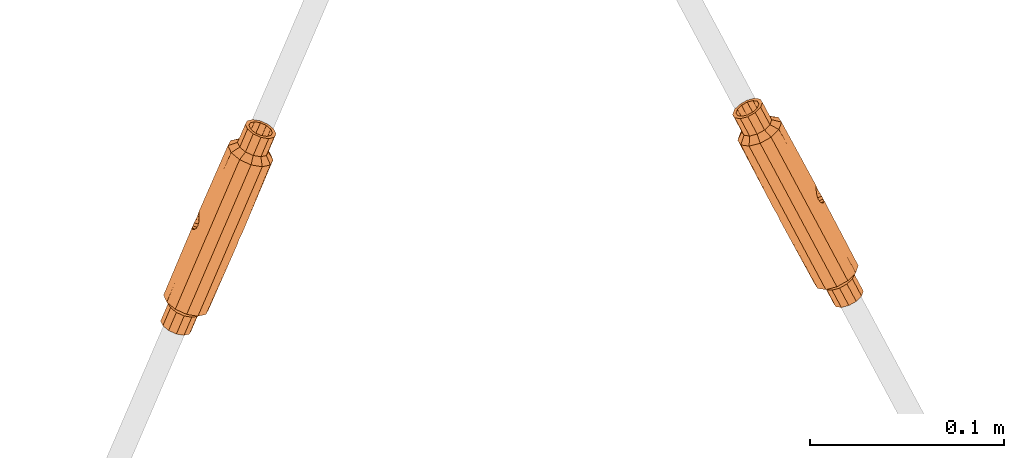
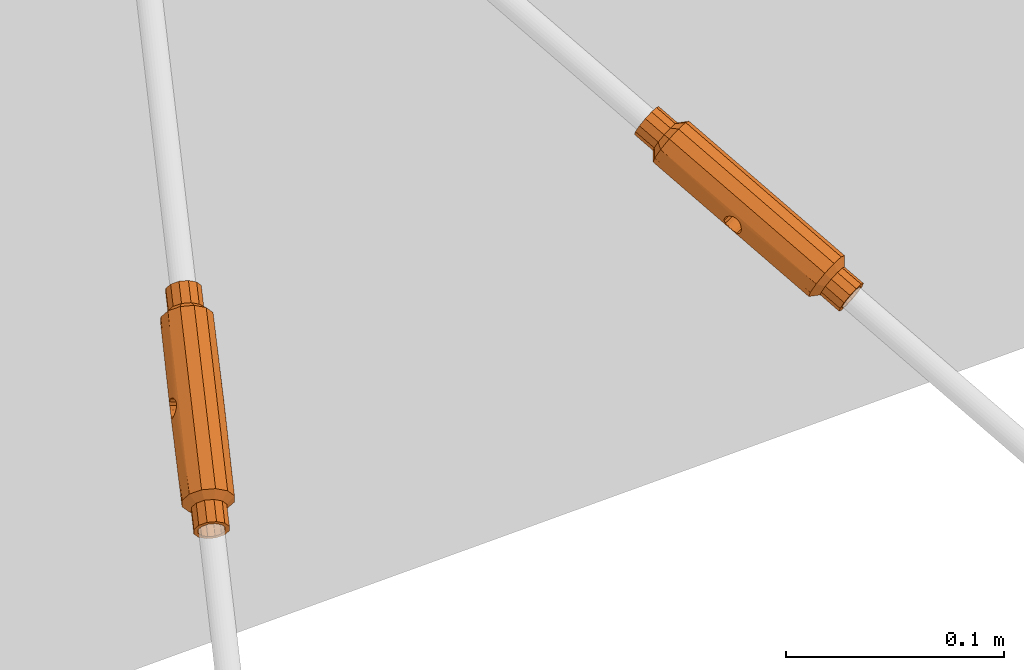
# One storey, part 287 of 288: 2 proxies.
"""IFC2X3 building model written with IfcOpenShell, lengths in millimetres."""

from ifc_helpers import new_model, entity, si_unit, converted_unit, origin_with_axes, place, context, project, spatial, faceted_brep, material, element, save


model = new_model("IFC2X3")

# Units and contexts
model_context = context("Model", 3, precision=1e-09, world=origin_with_axes())
ifc_project = project(units=[si_unit("LENGTHUNIT", "METRE", prefix="MILLI"), si_unit("AREAUNIT", "SQUARE_METRE"), si_unit("VOLUMEUNIT", "CUBIC_METRE"), converted_unit("PLANEANGLEUNIT", "DEGREE", entity("IfcPlaneAngleMeasure", 0.01745329), si_unit("PLANEANGLEUNIT", "RADIAN"), dimensions=[0, 0, 0, 0, 0, 0, 0])], contexts=[model_context])

# Site, building, storey
site_placement = place(None, origin_with_axes())
site = spatial("IfcSite", under=ifc_project, at=site_placement, Name="Remont ?wietlik?w nad MC w NCPP w Opolu", CompositionType="ELEMENT")
building_placement = place(site_placement, origin_with_axes())
building = spatial("IfcBuilding", under=site, at=building_placement, Name="Konstrukcja 1", CompositionType="ELEMENT")
storey_placement = place(building_placement, origin_with_axes())
storey = spatial("IfcBuildingStorey", under=building, at=storey_placement, Name="Default Storey", CompositionType="ELEMENT", Elevation=0.0)

# Proxies
ifc_material = material(Name="Brak")
proxy_1_placement = place(None, origin_with_axes())
element("IfcBuildingElementProxy", 1, at=proxy_1_placement, inside=storey, material=ifc_material, ObjectType="Turnbuckle", context=model_context, shape_type="Brep", body=[
    faceted_brep([(2773.815781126, 14317.48982, 513.129984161), (2775.142492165, 14319.044441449, 512.793696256), (2768.556513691, 14321.110668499, 514.158433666), (2796.745747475, 14371.050275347, 544.147673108), (2775.974391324, 14323.493278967, 518.414667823), (2776.268769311, 14323.186766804, 516.389752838), (2776.450333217, 14321.475916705, 513.844085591), (2776.494870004, 14322.185273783, 514.59086713), (2769.902437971, 14324.236512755, 515.947028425), (2775.755911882, 14319.863156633, 512.921271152), (2769.371161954, 14322.820276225, 514.689756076), (2796.000418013, 14369.668418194, 547.123544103), (2772.759520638, 14316.026896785, 514.142435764), (2767.666620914, 14319.365882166, 514.412587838), (2772.370329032, 14314.788675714, 515.721589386), (2766.984260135, 14317.780949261, 515.372878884), (2752.986323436, 14269.421122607, 485.995905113), (2758.228002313, 14280.422524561, 487.545061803), (2757.492471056, 14285.612379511, 486.551517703), (2763.309259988, 14284.628605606, 483.893658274), (2762.171013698, 14279.755656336, 485.743385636), (2753.306615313, 14284.646100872, 491.39011033), (2766.751493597, 14316.542595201, 516.884540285), (2775.871082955, 14322.919007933, 520.373730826), (2786.563777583, 14361.884256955, 535.585454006), (2770.14109213, 14325.112722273, 517.700905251), (2770.215412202, 14325.285144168, 519.666747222), (2790.749633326, 14362.850535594, 530.74686138), (2776.210340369, 14320.685426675, 513.274226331), (2798.922392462, 14371.55274024, 541.631604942), (2755.162968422, 14269.923587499, 483.479836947), (2758.144508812, 14270.419052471, 480.370315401), (2754.189092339, 14271.088018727, 482.177659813), (2766.163054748, 14277.945597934, 485.902715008), (2762.149109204, 14268.603299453, 480.530146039), (2794.127472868, 14370.253058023, 547.511194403), (2795.285691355, 14367.78023553, 550.961268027), (2798.266446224, 14365.304225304, 553.045447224), (2802.271046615, 14363.488472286, 553.205277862), (2806.226463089, 14362.819506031, 551.39793345), (2809.072844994, 14363.476575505, 548.107690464), (2810.047506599, 14365.283619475, 544.216166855), (2808.889288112, 14367.756441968, 540.766093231), (2805.908533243, 14370.232452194, 538.681914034), (2801.903932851, 14372.048205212, 538.522083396), (2797.948516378, 14372.717171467, 540.329427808), (2795.102134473, 14372.060101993, 543.619670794), (2799.165515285, 14365.884016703, 551.35561979), (2796.886114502, 14367.777436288, 549.761835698), (2801.947122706, 14371.041177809, 540.249518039), (2805.009464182, 14369.652660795, 540.371741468), (2807.288864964, 14367.759241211, 541.96552556), (2808.174561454, 14365.868259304, 544.603817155), (2807.429231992, 14364.486402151, 547.57968815), (2805.252587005, 14363.983937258, 550.095756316), (2802.227856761, 14364.495499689, 551.477843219), (2752.240993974, 14268.039265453, 488.971776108), (2751.342710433, 14270.430949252, 485.467902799), (2755.390547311, 14279.767515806, 490.824985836), (2751.873289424, 14281.98868327, 497.112939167), (2772.844993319, 14314.033990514, 517.561027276), (2767.067363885, 14315.843277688, 518.696721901), (2776.059864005, 14321.500372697, 521.833259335), (2770.252247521, 14324.672927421, 521.536681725), (2791.076267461, 14362.710219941, 538.269708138), (2790.101605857, 14360.903175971, 542.161231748), (2776.422838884, 14319.59443516, 522.551966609), (2765.129864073, 14266.127289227, 482.614325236), (2766.288082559, 14263.654466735, 486.06439886), (2765.313420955, 14261.847422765, 489.955922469), (2762.46703905, 14261.19035329, 493.246165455), (2758.511622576, 14261.859319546, 495.053509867), (2754.507022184, 14263.675072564, 494.893679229), (2751.526267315, 14266.15108279, 492.809500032), (2750.368048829, 14268.623905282, 489.359426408), (2763.669807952, 14262.85724941, 489.427920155), (2764.415137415, 14264.239106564, 486.452049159), (2763.529440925, 14266.13008847, 483.813757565), (2761.250040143, 14268.023508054, 482.219973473), (2758.187698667, 14269.412025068, 482.097750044), (2753.126690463, 14266.148283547, 491.610067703), (2755.406091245, 14264.254863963, 493.203851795), (2758.468432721, 14262.866346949, 493.326075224), (2761.493162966, 14262.354784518, 491.943988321), (2783.992716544, 14314.313089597, 511.023626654), (2783.721500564, 14316.366503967, 511.018067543), (2784.355691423, 14312.407152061, 511.742333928), (2769.198378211, 14281.958380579, 484.12870333), (2796.566422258, 14361.866761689, 528.08900195), (2793.922649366, 14363.367289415, 534.979465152), (2769.13446129, 14275.477353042, 487.980357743), (2767.819377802, 14315.804157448, 520.522299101), (2773.969850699, 14313.897488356, 519.292197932), (2770.298515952, 14323.347472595, 522.990590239), (2785.130451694, 14359.226839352, 541.308282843), (2770.293849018, 14321.550997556, 523.810616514), (2776.694054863, 14317.541020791, 522.55752572), (2770.101789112, 14319.588382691, 523.920337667), (2776.661991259, 14316.540835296, 522.309625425), (2775.341677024, 14314.400188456, 520.760354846), (2768.755864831, 14316.462538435, 522.131742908), (2790.313766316, 14314.319142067, 509.655255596), (2790.121706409, 14312.356527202, 509.764976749), (2784.544472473, 14310.988516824, 513.201862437), (2790.117039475, 14310.560052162, 510.585003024), (2783.753564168, 14317.366689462, 511.265967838), (2754.418942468, 14277.966139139, 494.704304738), (2776.426289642, 14315.65028966, 521.911399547), (2769.587111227, 14317.78513921, 523.326929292), (2775.967569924, 14314.928075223, 521.386810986), (2791.259824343, 14358.430353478, 545.611305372), (2770.289047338, 14273.012285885, 491.419611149), (2784.441164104, 14310.41424579, 515.16092544), (2790.163307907, 14309.234597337, 512.038911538), (2790.8284442, 14316.122385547, 510.248663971), (2773.581841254, 14278.317189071, 487.193672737), (2802.455540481, 14359.196536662, 528.324047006), (2797.87806584, 14362.69832316, 533.17212074), (2783.989265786, 14318.257235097, 511.664193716), (2753.576551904, 14278.352179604, 502.186576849), (2786.833714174, 14355.590335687, 546.381920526), (2775.285103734, 14274.680685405, 492.26731042), (2790.200143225, 14308.62238059, 513.908846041), (2784.447985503, 14318.979449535, 512.188782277), (2755.573528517, 14275.501071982, 498.143558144), (2794.240579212, 14355.954343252, 547.695484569), (2783.920685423, 14311.722250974, 518.984726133), (2784.146786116, 14310.720757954, 517.185840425), (2769.317442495, 14271.210909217, 495.298930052), (2790.274463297, 14308.794802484, 515.874688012), (2791.659690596, 14317.444986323, 511.443850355), (2806.839003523, 14355.555345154, 531.389016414), (2801.882666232, 14360.882570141, 533.331951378), (2785.073878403, 14319.507336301, 512.815238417), (2786.445704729, 14320.010036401, 514.283395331), (2792.596177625, 14318.103367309, 513.053294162), (2787.570562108, 14319.873534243, 516.014565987), (2793.348191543, 14318.064247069, 514.878871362), (2788.045226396, 14319.118849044, 517.854003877), (2783.96522221, 14312.431608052, 519.731507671), (2784.205215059, 14313.222098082, 520.301366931), (2790.513117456, 14309.671012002, 517.628564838), (2784.659643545, 14314.044368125, 520.654322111), (2793.66406183, 14317.364929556, 516.691052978), (2758.544935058, 14273.032827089, 500.221200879), (2757.960014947, 14274.710988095, 505.251546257), (2791.217177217, 14351.949144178, 549.446889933), (2787.65603479, 14317.880627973, 519.433157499), (2786.599774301, 14316.417704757, 520.445609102), (2798.245179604, 14354.138590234, 547.855315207), (2785.273063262, 14314.863083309, 520.781897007), (2791.044393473, 14311.087248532, 518.885837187), (2791.859041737, 14312.796856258, 519.417159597), (2762.536976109, 14271.222768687, 500.380530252), (2766.479987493, 14270.555900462, 498.578854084), (2773.851777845, 14272.023267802, 497.990139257), (2792.748934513, 14314.541642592, 519.163005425), (2793.431295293, 14316.126575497, 518.202714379), (2808.542266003, 14351.918841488, 536.462654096), (2804.863421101, 14358.406559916, 535.416130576), (2763.84913317, 14272.040763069, 505.486591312), (2797.10629544, 14349.278919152, 549.681934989), (2802.200596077, 14353.469623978, 546.047970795), (2807.108940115, 14349.261423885, 542.185482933), (2769.665922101, 14271.056989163, 502.828731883), (2806.021639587, 14355.933737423, 538.866204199), (2802.923084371, 14348.295145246, 547.02407556), (2805.046977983, 14354.126693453, 542.757727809)], [[[0, 1, 2]], [[3, 4, 5]], [[6, 7, 8]], [[9, 10, 2]], [[1, 9, 2]], [[3, 5, 7]], [[3, 11, 4]], [[12, 0, 13]], [[14, 12, 15]], [[16, 1, 0]], [[17, 18, 19, 20]], [[12, 13, 15]], [[0, 2, 13]], [[21, 2, 10]], [[14, 15, 22]], [[11, 23, 4]], [[7, 5, 8]], [[6, 8, 10]], [[24, 21, 10]], [[5, 4, 25]], [[4, 23, 26]], [[21, 24, 27, 18]], [[28, 6, 10]], [[29, 7, 6]], [[9, 28, 10]], [[30, 9, 1]], [[20, 31, 32, 17]], [[33, 34, 31, 20]], [[29, 3, 7]], [[35, 36, 37, 38, 39, 40, 41, 42, 43, 44, 45, 46], [47, 48, 11, 3, 29, 49, 50, 51, 52, 53, 54, 55]], [[16, 0, 12]], [[56, 12, 14]], [[16, 30, 1]], [[17, 32, 57, 58]], [[18, 17, 58, 21]], [[59, 15, 13]], [[21, 13, 2]], [[60, 14, 61]], [[14, 22, 61]], [[59, 22, 15]], [[11, 62, 23]], [[23, 63, 26]], [[5, 25, 8]], [[24, 10, 8]], [[4, 26, 25]], [[46, 64, 65, 35]], [[48, 66, 62]], [[11, 48, 62]], [[67, 68, 69, 70, 71, 72, 73, 74, 57, 32, 31, 34], [75, 76, 77, 78, 79, 30, 16, 56, 80, 81, 82, 83]], [[77, 84, 85]], [[77, 86, 84]], [[77, 76, 86]], [[20, 19, 87, 33]], [[18, 27, 88, 19]], [[64, 46, 45, 89]], [[78, 77, 85]], [[29, 6, 28]], [[30, 28, 9]], [[34, 33, 90, 67]], [[56, 16, 12]], [[56, 14, 60]], [[21, 59, 13]], [[60, 61, 91]], [[59, 61, 22]], [[92, 60, 91]], [[23, 62, 93]], [[23, 93, 63]], [[94, 26, 63]], [[62, 66, 95]], [[66, 96, 97]], [[24, 8, 25]], [[94, 25, 26]], [[24, 64, 89, 27]], [[47, 98, 96]], [[48, 96, 66]], [[99, 92, 100]], [[80, 60, 92]], [[101, 85, 84]], [[102, 84, 86]], [[76, 103, 86]], [[104, 86, 103]], [[101, 105, 85]], [[78, 85, 105]], [[30, 29, 28]], [[80, 56, 60]], [[58, 57, 74, 106]], [[21, 58, 106, 59]], [[59, 91, 61]], [[96, 98, 97]], [[107, 108, 98]], [[107, 109, 108]], [[109, 99, 100]], [[92, 91, 100]], [[62, 95, 93]], [[94, 63, 93]], [[66, 97, 95]], [[94, 24, 25]], [[64, 24, 94, 65]], [[35, 65, 110, 36]], [[81, 109, 107]], [[47, 107, 98]], [[48, 47, 96]], [[80, 92, 99]], [[81, 99, 109]], [[67, 90, 111, 68]], [[102, 101, 84]], [[104, 102, 86]], [[76, 112, 103]], [[113, 104, 103]], [[101, 114, 105]], [[33, 87, 115, 90]], [[19, 88, 116, 87]], [[27, 89, 117, 88]], [[89, 45, 44, 117]], [[114, 118, 105]], [[78, 105, 118]], [[29, 30, 79, 49]], [[59, 119, 91]], [[98, 108, 97]], [[109, 100, 108]], [[119, 100, 91]], [[94, 93, 95]], [[120, 95, 97]], [[47, 81, 107]], [[81, 80, 99]], [[76, 75, 112]], [[115, 101, 102]], [[121, 102, 104]], [[122, 103, 112]], [[122, 113, 103]], [[121, 104, 113]], [[115, 114, 101]], [[114, 123, 118]], [[50, 78, 118]], [[78, 50, 49, 79]], [[106, 74, 73, 124]], [[59, 106, 124, 119]], [[120, 97, 108]], [[119, 108, 100]], [[120, 94, 95]], [[65, 94, 120, 110]], [[36, 110, 125, 37]], [[81, 47, 55, 82]], [[75, 83, 126]], [[75, 127, 112]], [[75, 126, 127]], [[68, 111, 128, 69]], [[90, 115, 121, 111]], [[121, 115, 102]], [[129, 122, 112]], [[121, 113, 122]], [[114, 130, 123]], [[115, 131, 114]], [[87, 116, 131, 115]], [[88, 117, 132, 116]], [[117, 44, 43, 132]], [[130, 133, 123]], [[50, 118, 123]], [[130, 134, 133]], [[135, 136, 134]], [[137, 138, 136]], [[119, 120, 108]], [[83, 139, 126]], [[83, 140, 139]], [[129, 112, 127]], [[127, 126, 141]], [[54, 142, 140]], [[121, 122, 129]], [[137, 143, 138]], [[135, 137, 136]], [[130, 135, 134]], [[131, 130, 114]], [[50, 123, 133]], [[51, 133, 134]], [[51, 134, 136]], [[52, 136, 138]], [[124, 73, 72, 144]], [[119, 124, 144, 145]], [[120, 119, 145, 146]], [[110, 120, 146, 125]], [[52, 138, 147]], [[53, 147, 148]], [[37, 125, 149, 38]], [[53, 148, 150]], [[54, 150, 142]], [[83, 54, 140]], [[82, 55, 54, 83]], [[126, 139, 141]], [[139, 140, 151]], [[127, 141, 129]], [[140, 142, 151]], [[152, 142, 150]], [[71, 153, 144, 72]], [[70, 154, 153, 71]], [[69, 128, 154, 70]], [[111, 121, 155, 128]], [[155, 121, 129]], [[152, 150, 148]], [[156, 148, 147]], [[157, 147, 138]], [[143, 157, 138]], [[158, 143, 137]], [[158, 137, 135]], [[131, 135, 130]], [[116, 132, 159, 131]], [[132, 43, 42, 159]], [[51, 50, 133]], [[52, 51, 136]], [[53, 52, 147]], [[54, 53, 150]], [[139, 151, 141]], [[155, 129, 141]], [[152, 151, 142]], [[156, 152, 148]], [[157, 156, 147]], [[158, 157, 143]], [[131, 158, 135]], [[145, 144, 153, 160]], [[146, 145, 160, 161]], [[125, 146, 161, 149]], [[38, 149, 162, 39]], [[155, 141, 151]], [[163, 151, 152]], [[154, 164, 160, 153]], [[128, 155, 164, 154]], [[163, 152, 156]], [[158, 156, 157]], [[131, 159, 165, 158]], [[159, 42, 41, 165]], [[163, 155, 151]], [[158, 163, 156]], [[161, 160, 164, 166]], [[149, 161, 166, 162]], [[40, 167, 165, 41]], [[39, 162, 167, 40]], [[155, 163, 166, 164]], [[158, 165, 167, 163]], [[162, 166, 163, 167]]]),
])
proxy_2_placement = place(None, origin_with_axes())
element("IfcBuildingElementProxy", 2, at=proxy_2_placement, inside=storey, material=ifc_material, ObjectType="Turnbuckle", context=model_context, shape_type="Brep", body=[
    faceted_brep([(3076.15626723, 14326.700768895, 510.940399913), (3076.25269033, 14328.769771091, 510.934736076), (3069.856614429, 14326.171705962, 509.575624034), (3048.43725015, 14377.983887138, 541.89683118), (3072.123424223, 14331.938521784, 515.933507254), (3073.231705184, 14332.169708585, 514.201700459), (3075.308299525, 14331.311871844, 512.105926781), (3074.640325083, 14331.78489888, 512.732751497), (3068.251943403, 14329.172445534, 511.36505931), (3076.136219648, 14329.763658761, 511.182678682), (3069.191481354, 14327.92492568, 510.169368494), (3047.716299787, 14376.024783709, 544.53558045), (3075.956336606, 14324.770964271, 511.659267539), (3070.214177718, 14324.232395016, 509.685188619), (3075.889147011, 14323.341475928, 513.118868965), (3070.371361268, 14322.442782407, 510.505168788), (3100.609189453, 14280.422206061, 483.717735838), (3096.986063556, 14291.972430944, 485.808475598), (3093.6209538, 14295.713836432, 484.03628717), (3099.262773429, 14298.872971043, 483.79795737), (3100.81046896, 14294.113905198, 485.646919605), (3089.563184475, 14291.714738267, 487.103661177), (3070.438282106, 14321.118203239, 511.95907142), (3071.715391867, 14331.146410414, 517.773196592), (3049.912510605, 14365.861615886, 531.319773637), (3067.264002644, 14329.749231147, 512.975051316), (3066.519037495, 14329.646639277, 514.801054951), (3053.970279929, 14369.86071405, 528.25239963), (3075.826208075, 14330.63106626, 511.581060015), (3050.547290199, 14380.063418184, 540.301796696), (3102.719229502, 14282.501737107, 482.122701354), (3105.609785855, 14285.151514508, 480.271335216), (3101.773348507, 14283.003302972, 480.433399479), (3104.683904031, 14295.112189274, 487.446369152), (3109.495407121, 14286.152939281, 482.076446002), (3045.899344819, 14375.283692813, 544.148981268), (3047.025682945, 14373.565730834, 548.039906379), (3049.919339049, 14373.152037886, 551.328514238), (3053.804960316, 14374.153462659, 553.133625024), (3057.641397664, 14376.301674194, 552.97156076), (3060.400680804, 14379.021060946, 550.885746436), (3061.343462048, 14381.58296543, 547.435074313), (3060.217123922, 14383.300927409, 543.544149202), (3057.323467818, 14383.714620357, 540.255541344), (3053.437846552, 14382.713195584, 538.450430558), (3049.601409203, 14380.564984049, 538.612494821), (3046.842126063, 14377.845597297, 540.698309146), (3050.790413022, 14374.394694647, 550.025811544), (3048.577617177, 14374.711048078, 547.51099377), (3053.481036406, 14381.706168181, 540.177865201), (3056.452393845, 14382.471963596, 541.558244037), (3058.66518969, 14382.155610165, 544.073061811), (3059.52650708, 14380.841874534, 547.048475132), (3058.805556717, 14378.882771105, 549.687224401), (3056.695516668, 14376.80324006, 551.282258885), (3053.761770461, 14375.160490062, 551.406190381), (3099.88823909, 14278.463102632, 486.356485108), (3099.014065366, 14280.28391622, 482.519213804), (3094.235434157, 14289.26157281, 487.887748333), (3088.176741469, 14287.947231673, 492.178179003), (3076.041809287, 14322.778058, 515.077859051), (3070.454465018, 14320.505110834, 513.829011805), (3072.208896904, 14329.945615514, 519.352098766), (3066.264526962, 14328.923137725, 516.613399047), (3051.641944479, 14368.869922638, 535.345832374), (3050.699163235, 14366.308018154, 538.796504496), (3073.385774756, 14328.577376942, 520.36391423), (3112.389063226, 14285.739246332, 485.36505386), (3113.515401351, 14284.021284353, 489.255978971), (3112.572620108, 14281.459379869, 492.706651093), (3109.813336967, 14278.739993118, 494.792465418), (3105.976899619, 14276.591781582, 494.954529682), (3102.091278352, 14275.590356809, 493.149418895), (3099.197622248, 14276.004049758, 489.860811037), (3098.071284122, 14277.722011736, 485.969885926), (3110.97749602, 14281.321090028, 491.508129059), (3111.698446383, 14283.280193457, 488.869379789), (3110.837128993, 14284.593929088, 485.893966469), (3108.624333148, 14284.910282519, 483.379148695), (3105.652975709, 14284.144487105, 481.998769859), (3100.749556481, 14277.149367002, 489.331898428), (3102.962352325, 14276.83301357, 491.846716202), (3105.933709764, 14277.598808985, 493.227095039), (3108.867455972, 14279.241558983, 493.103163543), (3086.028971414, 14330.727600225, 513.041046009), (3084.575236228, 14332.164331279, 512.705550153), (3087.205849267, 14329.359361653, 514.052861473), (3104.976922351, 14300.345654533, 486.452532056), (3059.612099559, 14373.019848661, 528.01406983), (3054.401227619, 14371.58930939, 533.26001805), (3107.56848497, 14294.699793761, 490.724663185), (3070.366934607, 14320.670670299, 515.794899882), (3076.310336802, 14323.108437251, 517.102613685), (3066.602141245, 14327.708967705, 518.124897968), (3048.526067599, 14362.094109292, 536.394291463), (3067.416759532, 14326.187506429, 519.084762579), (3074.839509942, 14327.140645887, 520.699410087), (3068.451294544, 14324.52431547, 519.338368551), (3075.519957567, 14326.376790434, 520.571466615), (3076.451875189, 14324.125518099, 518.901394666), (3070.05596557, 14321.523575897, 517.548933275), (3090.963451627, 14334.780661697, 514.066591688), (3091.997986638, 14333.117470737, 514.32019766), (3087.699354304, 14328.158566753, 515.631763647), (3092.812604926, 14331.596009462, 515.280062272), (3083.894788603, 14332.928186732, 512.833493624), (3093.29560969, 14286.707703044, 491.327598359), (3076.042157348, 14325.595929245, 520.21823323), (3069.407430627, 14322.889788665, 518.806541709), (3076.34787769, 14324.828577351, 519.648218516), (3051.825501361, 14364.590056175, 542.687429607), (3108.691290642, 14292.987219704, 494.603385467), (3087.291321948, 14327.366455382, 517.471452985), (3093.150219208, 14330.381839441, 516.791561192), (3090.007315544, 14336.415188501, 514.59841853), (3109.232298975, 14299.737282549, 491.288720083), (3065.32624848, 14374.492532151, 530.668644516), (3058.237664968, 14373.737520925, 533.097953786), (3083.372588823, 14333.709047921, 513.186727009), (3089.833121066, 14285.420816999, 497.900127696), (3050.182447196, 14359.567694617, 542.116240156), (3110.888678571, 14297.210867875, 497.010668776), (3092.895708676, 14329.658337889, 518.603905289), (3083.06686848, 14334.476399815, 513.756741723), (3094.418415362, 14284.995128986, 495.206320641), (3054.719157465, 14364.176363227, 545.976037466), (3084.774421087, 14327.520078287, 520.672208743), (3086.183040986, 14327.135268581, 519.20325978), (3107.751466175, 14290.433349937, 498.043235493), (3092.150743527, 14329.555746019, 520.429908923), (3089.358780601, 14337.781401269, 515.856026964), (3069.581625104, 14373.884160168, 535.504832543), (3062.123286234, 14374.738945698, 534.903064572), (3082.962870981, 14335.179459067, 514.503565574), (3083.104409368, 14336.196539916, 516.302346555), (3089.047811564, 14338.634306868, 517.610060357), (3083.372936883, 14336.526919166, 518.327101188), (3088.960281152, 14338.799866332, 519.575948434), (3083.52559916, 14335.963501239, 520.286091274), (3084.106446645, 14327.993105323, 521.299033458), (3083.588538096, 14328.673910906, 521.823900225), (3091.162802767, 14330.132531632, 522.03990093), (3083.278526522, 14329.541318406, 522.222281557), (3088.976464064, 14338.186773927, 521.44588882), (3097.302996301, 14284.582733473, 498.484614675), (3094.08849769, 14284.812445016, 502.736315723), (3054.43782382, 14358.959322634, 546.952428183), (3083.458409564, 14334.534012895, 521.7456927), (3083.25847894, 14332.604208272, 522.464560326), (3058.604778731, 14365.177788, 547.781148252), (3083.162055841, 14330.535206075, 522.470224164), (3090.223264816, 14331.380051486, 523.235591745), (3089.558131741, 14333.133271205, 523.829336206), (3101.176431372, 14285.581017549, 500.284064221), (3105.000836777, 14287.722491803, 500.122508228), (3109.502235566, 14293.443361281, 502.085186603), (3089.200568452, 14335.07258215, 523.71977162), (3089.043384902, 14336.86219476, 522.899791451), (3071.238004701, 14371.357745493, 541.226781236), (3065.016942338, 14374.32525275, 538.191672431), (3099.802646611, 14286.285128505, 505.390890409), (3060.151972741, 14360.432006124, 549.607002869), (3062.44121608, 14367.325999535, 547.619083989), (3069.851561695, 14367.590238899, 546.301299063), (3105.444466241, 14289.444263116, 505.15256061), (3066.143280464, 14372.607290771, 542.082597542), (3065.793792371, 14363.591140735, 549.36867307), (3065.20049922, 14370.045386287, 545.533269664)], [[[0, 1, 2]], [[3, 4, 5]], [[6, 7, 8]], [[9, 10, 2]], [[1, 9, 2]], [[3, 5, 7]], [[3, 11, 4]], [[12, 0, 13]], [[14, 12, 15]], [[16, 1, 0]], [[17, 18, 19, 20]], [[12, 13, 15]], [[0, 2, 13]], [[21, 2, 10]], [[14, 15, 22]], [[11, 23, 4]], [[7, 5, 8]], [[6, 8, 10]], [[24, 21, 10]], [[5, 4, 25]], [[4, 23, 26]], [[21, 24, 27, 18]], [[28, 6, 10]], [[29, 7, 6]], [[9, 28, 10]], [[30, 9, 1]], [[20, 31, 32, 17]], [[33, 34, 31, 20]], [[29, 3, 7]], [[35, 36, 37, 38, 39, 40, 41, 42, 43, 44, 45, 46], [47, 48, 11, 3, 29, 49, 50, 51, 52, 53, 54, 55]], [[16, 0, 12]], [[56, 12, 14]], [[16, 30, 1]], [[17, 32, 57, 58]], [[18, 17, 58, 21]], [[59, 15, 13]], [[21, 13, 2]], [[60, 14, 61]], [[14, 22, 61]], [[59, 22, 15]], [[11, 62, 23]], [[23, 63, 26]], [[5, 25, 8]], [[24, 10, 8]], [[4, 26, 25]], [[46, 64, 65, 35]], [[48, 66, 62]], [[11, 48, 62]], [[67, 68, 69, 70, 71, 72, 73, 74, 57, 32, 31, 34], [75, 76, 77, 78, 79, 30, 16, 56, 80, 81, 82, 83]], [[77, 84, 85]], [[77, 86, 84]], [[77, 76, 86]], [[20, 19, 87, 33]], [[18, 27, 88, 19]], [[64, 46, 45, 89]], [[78, 77, 85]], [[29, 6, 28]], [[30, 28, 9]], [[34, 33, 90, 67]], [[56, 16, 12]], [[56, 14, 60]], [[21, 59, 13]], [[60, 61, 91]], [[59, 61, 22]], [[92, 60, 91]], [[23, 62, 93]], [[23, 93, 63]], [[94, 26, 63]], [[62, 66, 95]], [[66, 96, 97]], [[24, 8, 25]], [[94, 25, 26]], [[24, 64, 89, 27]], [[47, 98, 96]], [[48, 96, 66]], [[99, 92, 100]], [[80, 60, 92]], [[101, 85, 84]], [[102, 84, 86]], [[76, 103, 86]], [[104, 86, 103]], [[101, 105, 85]], [[78, 85, 105]], [[30, 29, 28]], [[80, 56, 60]], [[58, 57, 74, 106]], [[21, 58, 106, 59]], [[59, 91, 61]], [[96, 98, 97]], [[107, 108, 98]], [[107, 109, 108]], [[109, 99, 100]], [[92, 91, 100]], [[62, 95, 93]], [[94, 63, 93]], [[66, 97, 95]], [[94, 24, 25]], [[64, 24, 94, 65]], [[35, 65, 110, 36]], [[81, 109, 107]], [[47, 107, 98]], [[48, 47, 96]], [[80, 92, 99]], [[81, 99, 109]], [[67, 90, 111, 68]], [[102, 101, 84]], [[104, 102, 86]], [[76, 112, 103]], [[113, 104, 103]], [[101, 114, 105]], [[33, 87, 115, 90]], [[19, 88, 116, 87]], [[27, 89, 117, 88]], [[89, 45, 44, 117]], [[114, 118, 105]], [[78, 105, 118]], [[29, 30, 79, 49]], [[59, 119, 91]], [[98, 108, 97]], [[109, 100, 108]], [[119, 100, 91]], [[94, 93, 95]], [[120, 95, 97]], [[47, 81, 107]], [[81, 80, 99]], [[76, 75, 112]], [[115, 101, 102]], [[121, 102, 104]], [[122, 103, 112]], [[122, 113, 103]], [[121, 104, 113]], [[115, 114, 101]], [[114, 123, 118]], [[50, 78, 118]], [[78, 50, 49, 79]], [[106, 74, 73, 124]], [[59, 106, 124, 119]], [[120, 97, 108]], [[119, 108, 100]], [[120, 94, 95]], [[65, 94, 120, 110]], [[36, 110, 125, 37]], [[81, 47, 55, 82]], [[75, 83, 126]], [[75, 127, 112]], [[75, 126, 127]], [[68, 111, 128, 69]], [[90, 115, 121, 111]], [[121, 115, 102]], [[129, 122, 112]], [[121, 113, 122]], [[114, 130, 123]], [[115, 131, 114]], [[87, 116, 131, 115]], [[88, 117, 132, 116]], [[117, 44, 43, 132]], [[130, 133, 123]], [[50, 118, 123]], [[130, 134, 133]], [[135, 136, 134]], [[137, 138, 136]], [[119, 120, 108]], [[83, 139, 126]], [[83, 140, 139]], [[129, 112, 127]], [[127, 126, 141]], [[54, 142, 140]], [[121, 122, 129]], [[137, 143, 138]], [[135, 137, 136]], [[130, 135, 134]], [[131, 130, 114]], [[50, 123, 133]], [[51, 133, 134]], [[51, 134, 136]], [[52, 136, 138]], [[124, 73, 72, 144]], [[119, 124, 144, 145]], [[120, 119, 145, 146]], [[110, 120, 146, 125]], [[52, 138, 147]], [[53, 147, 148]], [[37, 125, 149, 38]], [[53, 148, 150]], [[54, 150, 142]], [[83, 54, 140]], [[82, 55, 54, 83]], [[126, 139, 141]], [[139, 140, 151]], [[127, 141, 129]], [[140, 142, 151]], [[152, 142, 150]], [[71, 153, 144, 72]], [[70, 154, 153, 71]], [[69, 128, 154, 70]], [[111, 121, 155, 128]], [[155, 121, 129]], [[152, 150, 148]], [[156, 148, 147]], [[157, 147, 138]], [[143, 157, 138]], [[158, 143, 137]], [[158, 137, 135]], [[131, 135, 130]], [[116, 132, 159, 131]], [[132, 43, 42, 159]], [[51, 50, 133]], [[52, 51, 136]], [[53, 52, 147]], [[54, 53, 150]], [[139, 151, 141]], [[155, 129, 141]], [[152, 151, 142]], [[156, 152, 148]], [[157, 156, 147]], [[158, 157, 143]], [[131, 158, 135]], [[145, 144, 153, 160]], [[146, 145, 160, 161]], [[125, 146, 161, 149]], [[38, 149, 162, 39]], [[155, 141, 151]], [[163, 151, 152]], [[154, 164, 160, 153]], [[128, 155, 164, 154]], [[163, 152, 156]], [[158, 156, 157]], [[131, 159, 165, 158]], [[159, 42, 41, 165]], [[163, 155, 151]], [[158, 163, 156]], [[161, 160, 164, 166]], [[149, 161, 166, 162]], [[40, 167, 165, 41]], [[39, 162, 167, 40]], [[155, 163, 166, 164]], [[158, 165, 167, 163]], [[162, 166, 163, 167]]]),
])

save(model, "model.ifc")
